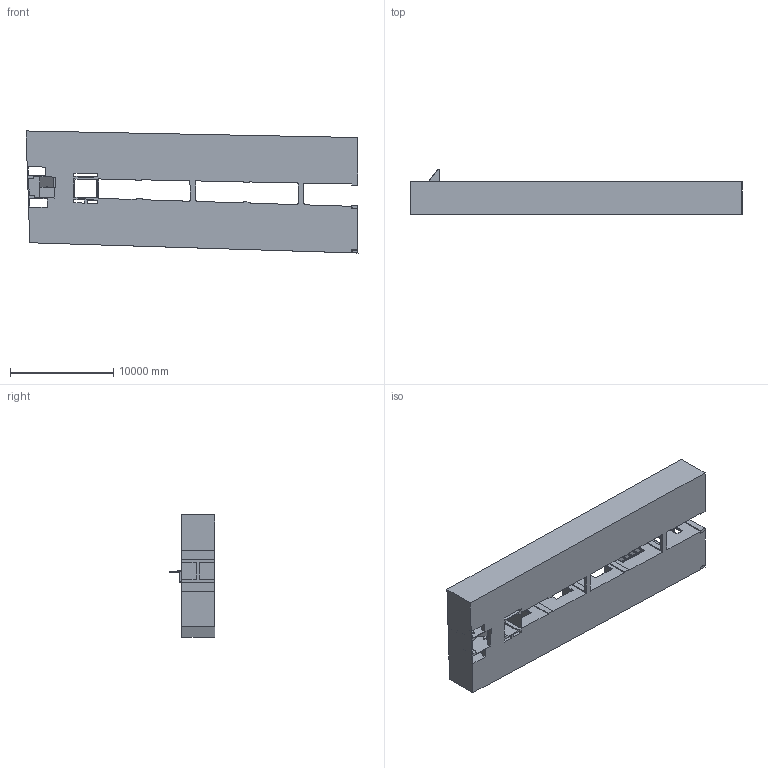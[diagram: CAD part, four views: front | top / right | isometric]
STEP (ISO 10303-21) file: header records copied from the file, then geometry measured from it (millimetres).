
FILE_DESCRIPTION (( 'STEP AP214' ), '1' );
FILE_NAME ('ASSEMBLY_3_LivingFloorTesting.STEP', '2012-08-22T10:15:48', ( '' ), ( '' ), 'SwSTEP 2.0', 'SolidWorks 2012', '' );
FILE_SCHEMA (( 'AUTOMOTIVE_DESIGN' ));
Length unit declared in the file: metre
Products named in the file (18): 12_FrontSlideDoor_DoorForSixDoorFrame; 11_FrontSlideDoor_SixDoorFrame; 03_OnePanWindow_Thinner; 04_KitchenWindow_3Pan; ASSEMBLY_DinnerTableSet; 02_DinnerChair; 01_DinnerTable_ForSix; 10_Kitchen_FloorCabinet_LongDoor; 10_Kitchen_FloorCabinet_LongDoorMirrored; 09_Kitchen_OverheadCabinet_LongDoorMirrored; 07_Microwave; 06_ExhaustUnit; 01_Square_ToiletOutlet; 05_Stove; 04_KitchenSink; 03_Fridge; 06_FloorDesign_C; ASSEMBLY_3_LivingFloorTesting
Assembly tree (55 placements, depth 3):
  ASSEMBLY_3_LivingFloorTesting
    06_FloorDesign_C
    03_Fridge  x2
    04_KitchenSink  x2
    05_Stove  x2
    01_Square_ToiletOutlet
    06_ExhaustUnit  x2
    07_Microwave  x2
    09_Kitchen_OverheadCabinet_LongDoorMirrored  x10
    10_Kitchen_FloorCabinet_LongDoorMirrored  x8
    10_Kitchen_FloorCabinet_LongDoor  x2
    ASSEMBLY_DinnerTableSet  x2
      01_DinnerTable_ForSix
      02_DinnerChair
    04_KitchenWindow_3Pan  x2
    03_OnePanWindow_Thinner  x4
    11_FrontSlideDoor_SixDoorFrame  x2
    12_FrontSlideDoor_DoorForSixDoorFrame  x6
Bounding box: 32119.07 x 4400 x 11811.8 mm (x, y, z)
Volume: 239258577550.8 mm3; surface area: 2196562602 mm2
Topology: 84 solids, 84 shells, 7586 faces, 18266 edges, 10948 vertices
Faces by surface type: plane 4151, cylinder 1771, torus 1013, cone 296, bspline 266, sphere 89
Entity records: 116372 total; most frequent: CARTESIAN_POINT 29988, ORIENTED_EDGE 17024, DIRECTION 16573, EDGE_CURVE 8512, VECTOR 6005, LINE 6005, AXIS2_PLACEMENT_3D 5284, VERTEX_POINT 5209
